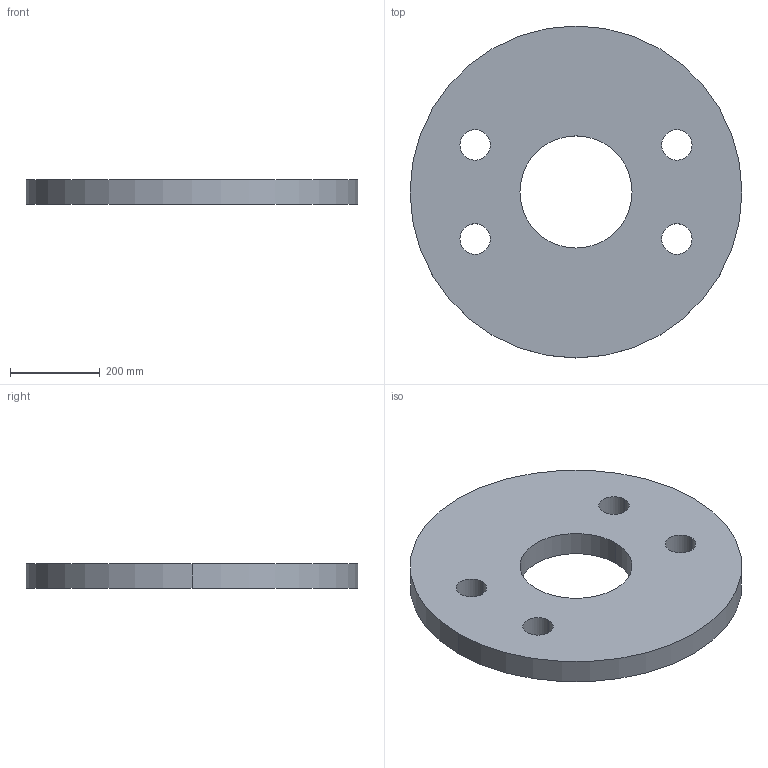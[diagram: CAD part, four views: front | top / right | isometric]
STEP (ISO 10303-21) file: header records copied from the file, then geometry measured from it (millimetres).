
FILE_DESCRIPTION (( 'STEP AP203' ), '1' );
FILE_NAME ('Kreissscheibe M64.STEP', '2018-02-22T05:54:51', ( 'install' ), ( 'Hewlett-Packard Company' ), 'SwSTEP 2.0', 'SolidWorks 2017', '' );
FILE_SCHEMA (( 'CONFIG_CONTROL_DESIGN' ));
Length unit declared in the file: millimetre
Products named in the file (1): Kreissscheibe M64
Bounding box: 740 x 740 x 55 mm (x, y, z)
Volume: 20155845.9 mm3; surface area: 950997.8 mm2
Topology: 1 solids, 1 shells, 14 faces, 36 edges, 24 vertices
Faces by surface type: cylinder 12, plane 2
Entity records: 541 total; most frequent: DIRECTION 90, CARTESIAN_POINT 75, ORIENTED_EDGE 72, AXIS2_PLACEMENT_3D 39, EDGE_CURVE 36, CIRCLE 24, VERTEX_POINT 24, EDGE_LOOP 24
